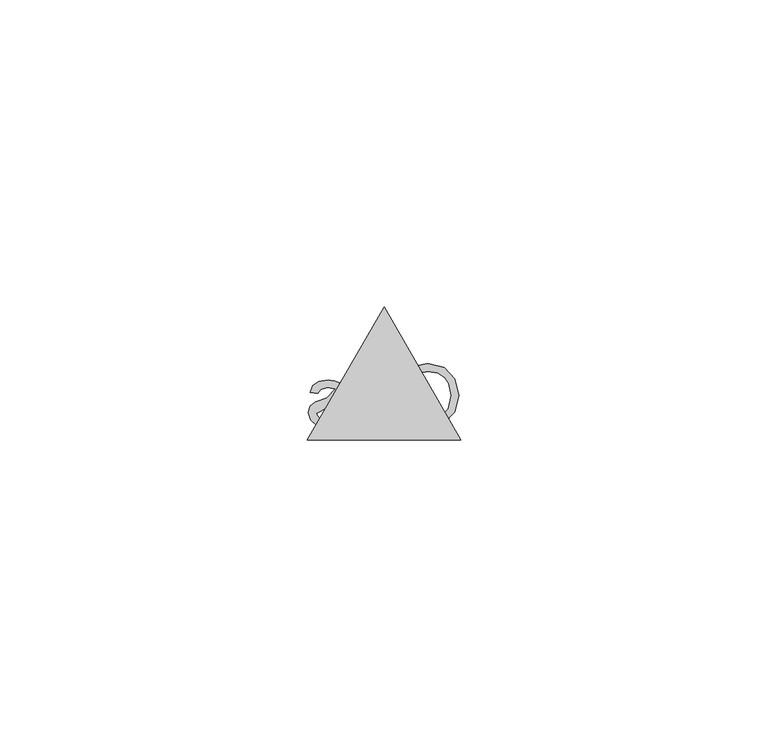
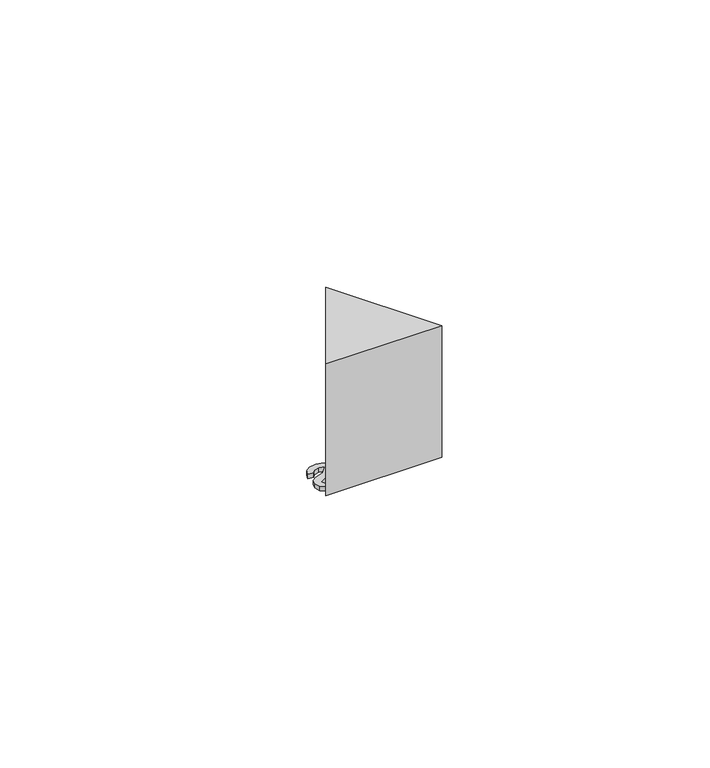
"""IFC4 building model written with IfcOpenShell, lengths in millimetres: proxy geometry, 12106150_HK_CS7151FL : 27715150_HK_12106150_CS7151FL."""

from ifc_helpers import new_model, si_unit, frame, origin, place, context, project, spatial, polyline, outline, extrude, source, transform, mapped, element, save


def specialty_equipment_cc2c99b8(model_context):
    return source(origin(), model_context, "Body", "SweptSolid", [
        extrude(outline(polyline([(-85.5151472, 458.9240746), (-88.3404809, 458.9240746), (-88.3404809, 457.1091901), (-87.0688355, 456.4212508), (-85.3508266, 456.0987409), (-83.4366139, 456.5267103), (-82.0631878, 457.8363702), (-81.5910726, 460.0252681), (-81.98348, 461.9971155), (-82.6297261, 462.9646452), (-83.7235619, 463.6758837), (-85.3312062, 463.9468901), (-86.7426468, 463.6955041), (-87.7212129, 463.0259589), (-88.2938825, 461.864678), (-89.4514845, 462.1908667), (-88.6924213, 463.8524671), (-87.3153164, 464.8457485), (-85.3508266, 465.202594), (-82.7069813, 464.5870048), (-80.9472791, 462.7046753), (-80.3353687, 459.9737646), (-80.9497316, 457.3029413), (-82.7695212, 455.4745678), (-85.451381, 454.843037), (-87.5814177, 455.2403496), (-89.5961848, 456.4249296), (-89.5961848, 460.1797785), (-85.5151472, 460.1797785), (-85.5151472, 458.9240746)])), frame((0.0, 0.0, -120.0), z_axis=(0.0, 0.0, 1.0), x_axis=(1.0, 0.0, 0.0)), (0.0, 0.0, 1.0), 1.0),
        extrude(outline(polyline([(-96.1886301, 455.9417779), (-96.5025561, 455.0), (-97.75826, 455.0), (-97.5081002, 456.0558213), (-97.444334, 458.2373616), (-97.444334, 459.7996338), (-97.3830203, 460.8983747), (-96.9979705, 461.7506346), (-96.1383529, 462.3110415), (-94.6165477, 462.5342233), (-92.9598525, 462.281611), (-91.8660167, 461.5630148), (-91.3227776, 460.3367415), (-92.5784815, 460.1797785), (-93.1842605, 461.0369435), (-94.4546797, 461.2785194), (-95.8428211, 460.9155425), (-96.1812725, 459.7088895), (-94.0034111, 459.2772413), (-92.9169329, 459.0883952), (-92.037695, 458.6763674), (-91.4061642, 457.9553187), (-91.1658146, 456.9620373), (-91.8022505, 455.4390058), (-93.6257189, 454.843037), (-94.9709407, 455.0907442), (-96.1886301, 455.9417779)]), holes=[polyline([(-96.1849513, 458.275376), (-95.9826162, 457.1263579), (-95.1634656, 456.3991779), (-93.8930465, 456.0987409), (-93.0824798, 457.8645745), (-94.1628266, 458.0681358), (-96.1849513, 458.275376)])]), frame((0.0, 0.0, -120.0), z_axis=(0.0, 0.0, 1.0), x_axis=(1.0, 0.0, 0.0)), (0.0, 0.0, 1.0), 1.0),
        extrude(outline(polyline([(-98.7000379, 457.1974818), (-99.6614362, 455.4365533), (-101.8515603, 454.843037), (-103.4064749, 455.1508316), (-104.4573911, 456.0227119), (-104.8215943, 457.2244598), (-104.5113471, 458.315843), (-103.6554084, 458.9853883), (-101.8123196, 459.576452), (-100.4732291, 461.0406224), (-101.674977, 461.2785194), (-102.7798492, 461.0295859), (-103.2519644, 460.3367415), (-104.5076683, 460.4937045), (-104.0760201, 461.6206496), (-103.1048116, 462.2877423), (-101.5768751, 462.5342233), (-100.4965283, 462.3809391), (-99.6982244, 462.0093783), (-99.0826352, 461.2944609), (-98.8570009, 460.3588144), (-99.1378175, 459.3459126), (-99.9630994, 458.6285427), (-101.8540129, 458.0141798), (-103.5658904, 457.0920223), (-103.1489575, 456.395499), (-101.8687281, 456.0987409), (-100.5369953, 456.422477), (-99.9557418, 457.3544448), (-98.7000379, 457.1974818)])), frame((0.0, 0.0, -120.0), z_axis=(0.0, 0.0, 1.0), x_axis=(1.0, 0.0, 0.0)), (0.0, 0.0, 1.0), 1.0),
        extrude(outline(polyline([(-92.5, 474.4206351), (-80.0, 452.77), (-105.0, 452.77), (-92.5, 474.4206351)])), frame((0.0, 0.0, -119.0), z_axis=(0.0, 0.0, 1.0), x_axis=(1.0, 0.0, 0.0)), (0.0, 0.0, 1.0), 30.0),
    ])


if __name__ == "__main__":
    model = new_model("IFC4")
    model_context = context("Model", 3, world=origin())
    ifc_project = project(units=[si_unit("LENGTHUNIT", "METRE", prefix="MILLI")], contexts=[model_context])
    site = spatial("IfcSite", under=ifc_project)
    building = spatial("IfcBuilding", under=site)
    placement = place(None, origin())
    specialty_equipment_shape = specialty_equipment_cc2c99b8(model_context)
    element("IfcBuildingElementProxy", 1, Name="12106150_HK_CS7151FL : 27715150_HK_12106150_CS7151FL", ObjectType="12106150_HK_CS7151FL : 27715150_HK_12106150_CS7151FL", at=placement, inside=building, context=model_context, shape_type="MappedRepresentation", body=[
        mapped(specialty_equipment_shape, transform((0.0, 0.0, 0.0), x_axis=(1.0, 0.0, 0.0), y_axis=(0.0, 1.0, 0.0), z_axis=(0.0, 0.0, 1.0))),
    ])
    save(model, "model.ifc")
